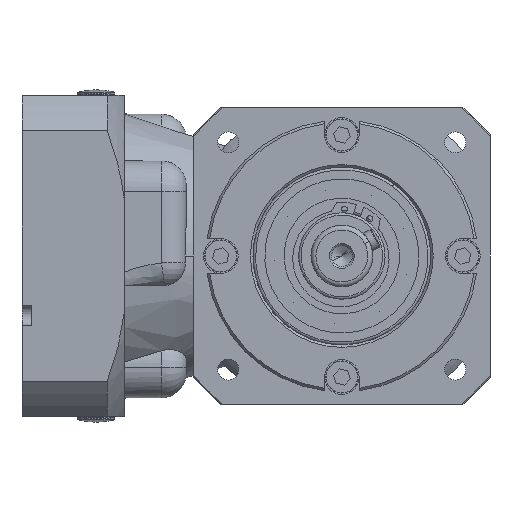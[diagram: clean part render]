
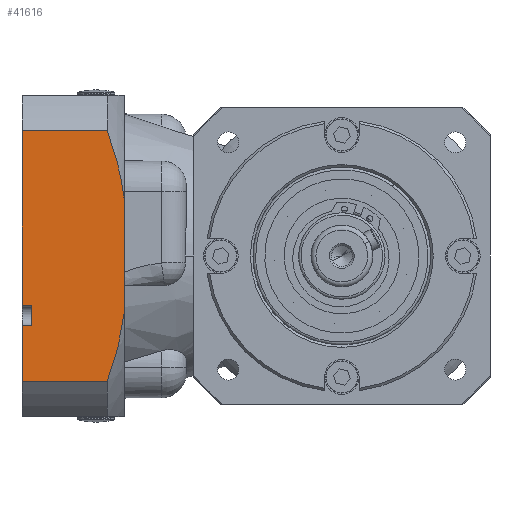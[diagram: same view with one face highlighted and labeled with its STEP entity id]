
A CAD part, left-side view. The second image highlights one B-rep face of the part: STEP entity #41616.
In plain terms, the highlighted planar face has unit normal (-1, 0, 0).
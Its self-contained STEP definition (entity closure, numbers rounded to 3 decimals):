
#1991 = CARTESIAN_POINT ( 'NONE',  ( 77.5, 129.5, 65. ) ) ;
#2517 = CARTESIAN_POINT ( 'NONE',  ( 77.5, 129.5, 65. ) ) ;
#3197 = LINE ( 'NONE', #39583, #31463 ) ;
#3431 = CARTESIAN_POINT ( 'NONE',  ( 77.5, 95.052, -50.806 ) ) ;
#3797 = CARTESIAN_POINT ( 'NONE',  ( 77.5, 129.5, 65. ) ) ;
#4058 = ORIENTED_EDGE ( 'NONE', *, *, #20970, .T. ) ;
#4071 = CARTESIAN_POINT ( 'NONE',  ( 77.5, 89.598, 32.244 ) ) ;
#4455 = VECTOR ( 'NONE', #41463, 1000. ) ;
#4507 = B_SPLINE_CURVE_WITH_KNOTS ( 'NONE', 3,
 ( #22919, #15354, #26786, #26300, #4071, #15682, #29865, #15522 ),
 .UNSPECIFIED., .F., .F.,
 ( 4, 2, 2, 4 ),
 ( 0.525, 0.539, 0.546, 0.553 ),
 .UNSPECIFIED. ) ;
#4796 = DIRECTION ( 'NONE',  ( 0., 1., 0. ) ) ;
#4976 = CARTESIAN_POINT ( 'NONE',  ( 77.5, 95.052, 50.806 ) ) ;
#6632 = CARTESIAN_POINT ( 'NONE',  ( 77.5, 88., 65. ) ) ;
#6924 = CARTESIAN_POINT ( 'NONE',  ( 77.5, 125.5, -20. ) ) ;
#7052 = B_SPLINE_CURVE_WITH_KNOTS ( 'NONE', 3,
 ( #22742, #33703, #25956, #25790, #30168, #33540 ),
 .UNSPECIFIED., .F., .F.,
 ( 4, 2, 4 ),
 ( 0.023, 0.037, 0.052 ),
 .UNSPECIFIED. ) ;
#7144 = EDGE_CURVE ( 'NONE', #30273, #36844, #7052, .T. ) ;
#7332 = EDGE_LOOP ( 'NONE', ( #12635, #4058, #43016, #28605, #17154, #20575, #40010, #42133, #32637, #46612 ) ) ;
#8255 = LINE ( 'NONE', #23150, #24958 ) ;
#9781 = DIRECTION ( 'NONE',  ( 1., 0., 0. ) ) ;
#9879 = CARTESIAN_POINT ( 'NONE',  ( 77.5, 88., 22.62 ) ) ;
#10990 = DIRECTION ( 'NONE',  ( 0., 0., 1. ) ) ;
#11545 = VECTOR ( 'NONE', #23562, 1000. ) ;
#12635 = ORIENTED_EDGE ( 'NONE', *, *, #7144, .F. ) ;
#13993 = DIRECTION ( 'NONE',  ( 0., 1., 0. ) ) ;
#14443 = VERTEX_POINT ( 'NONE', #45709 ) ;
#15354 = CARTESIAN_POINT ( 'NONE',  ( 77.5, 93.288, 46.305 ) ) ;
#15522 = CARTESIAN_POINT ( 'NONE',  ( 77.5, 88., 22.62 ) ) ;
#15569 = LINE ( 'NONE', #1991, #40306 ) ;
#15682 = CARTESIAN_POINT ( 'NONE',  ( 77.5, 88.703, 27.44 ) ) ;
#15777 = VECTOR ( 'NONE', #13993, 1000. ) ;
#16735 = EDGE_CURVE ( 'NONE', #36844, #18357, #35878, .T. ) ;
#17154 = ORIENTED_EDGE ( 'NONE', *, *, #41829, .F. ) ;
#18205 = EDGE_CURVE ( 'NONE', #18357, #36177, #15569, .T. ) ;
#18357 = VERTEX_POINT ( 'NONE', #29539 ) ;
#19689 = EDGE_CURVE ( 'NONE', #43242, #36086, #21166, .T. ) ;
#19858 = AXIS2_PLACEMENT_3D ( 'NONE', #2517, #9781, #39211 ) ;
#19945 = LINE ( 'NONE', #6632, #44696 ) ;
#20150 = CARTESIAN_POINT ( 'NONE',  ( 77.5, 129.5, -20. ) ) ;
#20575 = ORIENTED_EDGE ( 'NONE', *, *, #46524, .T. ) ;
#20970 = EDGE_CURVE ( 'NONE', #30273, #27972, #19945, .T. ) ;
#21166 = LINE ( 'NONE', #34222, #4455 ) ;
#22742 = CARTESIAN_POINT ( 'NONE',  ( 77.5, 88., -22.62 ) ) ;
#22919 = CARTESIAN_POINT ( 'NONE',  ( 77.5, 95.052, 50.806 ) ) ;
#23150 = CARTESIAN_POINT ( 'NONE',  ( 77.5, 129.5, -28. ) ) ;
#23562 = DIRECTION ( 'NONE',  ( 0., -1., 0. ) ) ;
#23916 = DIRECTION ( 'NONE',  ( 0., 0., 1. ) ) ;
#24113 = FACE_OUTER_BOUND ( 'NONE', #7332, .T. ) ;
#24958 = VECTOR ( 'NONE', #4796, 1000. ) ;
#25790 = CARTESIAN_POINT ( 'NONE',  ( 77.5, 91.815, -41.566 ) ) ;
#25956 = CARTESIAN_POINT ( 'NONE',  ( 77.5, 89.507, -32.163 ) ) ;
#26208 = CARTESIAN_POINT ( 'NONE',  ( 77.5, 125.5, -28. ) ) ;
#26300 = CARTESIAN_POINT ( 'NONE',  ( 77.5, 90.109, 34.624 ) ) ;
#26642 = EDGE_CURVE ( 'NONE', #36086, #27972, #4507, .T. ) ;
#26786 = CARTESIAN_POINT ( 'NONE',  ( 77.5, 91.85, 41.691 ) ) ;
#27972 = VERTEX_POINT ( 'NONE', #9879 ) ;
#28427 = EDGE_CURVE ( 'NONE', #43673, #45421, #3197, .T. ) ;
#28605 = ORIENTED_EDGE ( 'NONE', *, *, #19689, .F. ) ;
#29539 = CARTESIAN_POINT ( 'NONE',  ( 77.5, 129.5, -50.806 ) ) ;
#29865 = CARTESIAN_POINT ( 'NONE',  ( 77.5, 88.322, 25.033 ) ) ;
#30168 = CARTESIAN_POINT ( 'NONE',  ( 77.5, 93.254, -46.217 ) ) ;
#30273 = VERTEX_POINT ( 'NONE', #36517 ) ;
#30445 = CARTESIAN_POINT ( 'NONE',  ( 77.5, 129.5, -28. ) ) ;
#30520 = EDGE_CURVE ( 'NONE', #43673, #36177, #8255, .T. ) ;
#31463 = VECTOR ( 'NONE', #36053, 1000. ) ;
#32637 = ORIENTED_EDGE ( 'NONE', *, *, #18205, .F. ) ;
#33540 = CARTESIAN_POINT ( 'NONE',  ( 77.5, 95.052, -50.806 ) ) ;
#33703 = CARTESIAN_POINT ( 'NONE',  ( 77.5, 88.639, -27.411 ) ) ;
#34222 = CARTESIAN_POINT ( 'NONE',  ( 77.5, 85.5, 50.806 ) ) ;
#35016 = VECTOR ( 'NONE', #44372, 1000. ) ;
#35878 = LINE ( 'NONE', #40216, #15777 ) ;
#36009 = PLANE ( 'NONE',  #19858 ) ;
#36053 = DIRECTION ( 'NONE',  ( 0., 0., 1. ) ) ;
#36086 = VERTEX_POINT ( 'NONE', #4976 ) ;
#36177 = VERTEX_POINT ( 'NONE', #30445 ) ;
#36517 = CARTESIAN_POINT ( 'NONE',  ( 77.5, 88., -22.62 ) ) ;
#36844 = VERTEX_POINT ( 'NONE', #3431 ) ;
#37340 = CARTESIAN_POINT ( 'NONE',  ( 77.5, 129.5, 50.806 ) ) ;
#38584 = LINE ( 'NONE', #20150, #11545 ) ;
#39211 = DIRECTION ( 'NONE',  ( 0., 0., -1. ) ) ;
#39583 = CARTESIAN_POINT ( 'NONE',  ( 77.5, 125.5, 65. ) ) ;
#40010 = ORIENTED_EDGE ( 'NONE', *, *, #28427, .F. ) ;
#40216 = CARTESIAN_POINT ( 'NONE',  ( 77.5, 85.5, -50.806 ) ) ;
#40306 = VECTOR ( 'NONE', #23916, 1000. ) ;
#41463 = DIRECTION ( 'NONE',  ( 0., -1., 0. ) ) ;
#41616 = ADVANCED_FACE ( 'NONE', ( #24113 ), #36009, .F. ) ;
#41829 = EDGE_CURVE ( 'NONE', #14443, #43242, #45952, .T. ) ;
#42133 = ORIENTED_EDGE ( 'NONE', *, *, #30520, .T. ) ;
#43016 = ORIENTED_EDGE ( 'NONE', *, *, #26642, .F. ) ;
#43242 = VERTEX_POINT ( 'NONE', #37340 ) ;
#43673 = VERTEX_POINT ( 'NONE', #26208 ) ;
#44372 = DIRECTION ( 'NONE',  ( 0., 0., 1. ) ) ;
#44696 = VECTOR ( 'NONE', #10990, 1000. ) ;
#45421 = VERTEX_POINT ( 'NONE', #6924 ) ;
#45709 = CARTESIAN_POINT ( 'NONE',  ( 77.5, 129.5, -20. ) ) ;
#45952 = LINE ( 'NONE', #3797, #35016 ) ;
#46524 = EDGE_CURVE ( 'NONE', #14443, #45421, #38584, .T. ) ;
#46612 = ORIENTED_EDGE ( 'NONE', *, *, #16735, .F. ) ;
